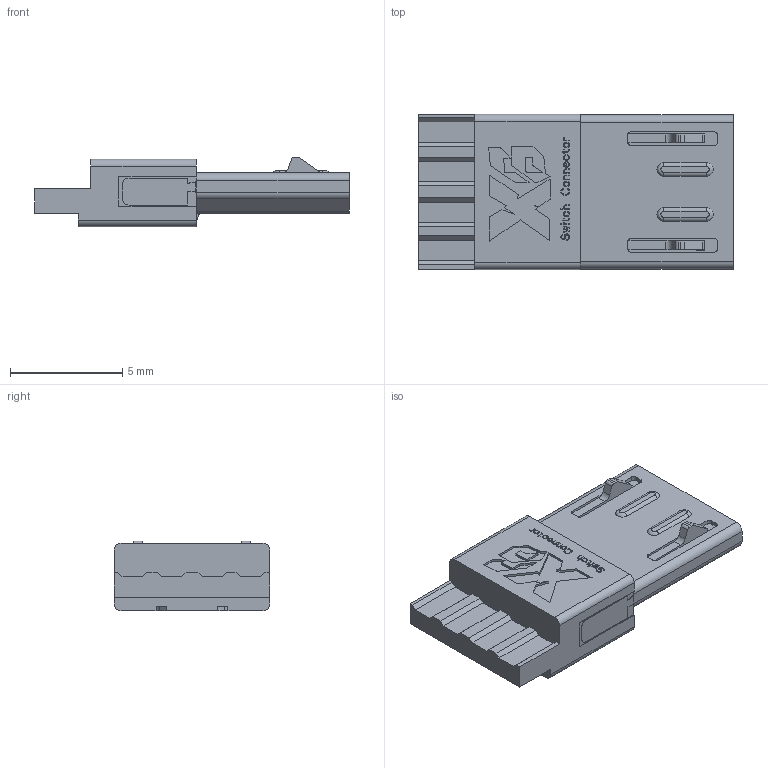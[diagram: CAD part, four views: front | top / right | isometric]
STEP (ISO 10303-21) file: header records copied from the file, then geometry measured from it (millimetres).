
FILE_DESCRIPTION(('STEP AP242'),'1');
FILE_NAME('xb-u251-04xn.stp','2024-03-27T06:51:10',('TraceParts'),('TraceParts S.A.'),'Spatial InterOp 3D',' ',' ');
FILE_SCHEMA(('AP242_MANAGED_MODEL_BASED_3D_ENGINEERING_MIM_LF {1 0 10303 442 1 1 4}'));
Length unit declared in the file: millimetre
Products named in the file (1): xb-u251-04xn
Bounding box: 14 x 6.9 x 3.1 mm (x, y, z)
Volume: 181.9 mm3; surface area: 365 mm2
Topology: 1 solids, 4 shells, 843 faces, 2394 edges, 1594 vertices
Faces by surface type: plane 733, cylinder 106, bspline 4
Entity records: 27115 total; most frequent: CARTESIAN_POINT 4968, ORIENTED_EDGE 4788, DIRECTION 4284, EDGE_CURVE 2394, LINE 2168, VECTOR 2168, VERTEX_POINT 1594, AXIS2_PLACEMENT_3D 1058
